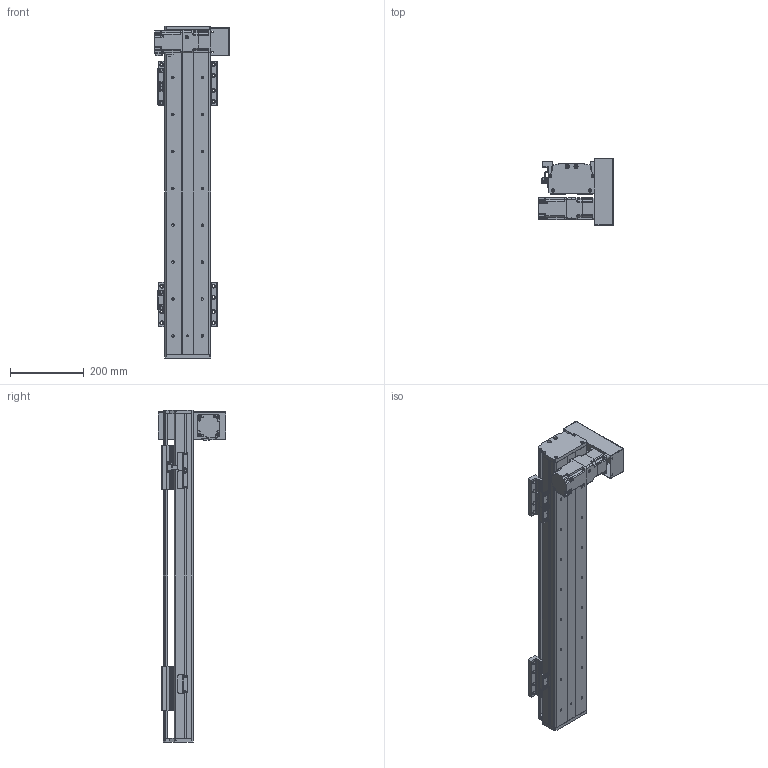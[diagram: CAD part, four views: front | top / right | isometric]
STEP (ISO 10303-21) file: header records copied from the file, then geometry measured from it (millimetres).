
FILE_DESCRIPTION(/* description */ (''),/* implementation_level */ '2;1');
FILE_NAME(/* name */ 'C:\Users\PC\Desktop\3D도면\STEP\새 폴더\DSB125-DR2G-W0600-L.stp',/* time_stamp */ '2018-06-21T14:56:13+09:00',/* author */ ('PC'),/* organization */ (''),/* preprocessor_version */ 'ST-DEVELOPER v16.5',/* originating_system */ 'Autodesk Inventor 2017',/* authorisation */ '');
FILE_SCHEMA (('AUTOMOTIVE_DESIGN { 1 0 10303 214 3 1 1 }'));
Length unit declared in the file: millimetre
Products named in the file (12): DSB125-DL2G-W0600-R_MIR; DSB125-BASE_MIR; DSB125-FRONT COVER_MIR; DSB125-REAR COVER_MIR; DSB125-UP COVER_MIR; hg-kr23__MIR; ab0601-p0401200402_MIR; 13-BELT COVER_MIR; DSR125-SENSOR DOG_MIR; pm-y65_step_MIR; SENSOR BRACKET(EE-SX674A)_MIR; DSB125-TABLE(MSB15S)_MIR
Assembly tree (16 placements, depth 2):
  DSB125-DL2G-W0600-R_MIR
    DSB125-BASE_MIR
    DSB125-FRONT COVER_MIR
    DSB125-REAR COVER_MIR
    DSB125-UP COVER_MIR
    hg-kr23__MIR
    ab0601-p0401200402_MIR
    13-BELT COVER_MIR
    DSR125-SENSOR DOG_MIR
    pm-y65_step_MIR  x3
    SENSOR BRACKET(EE-SX674A)_MIR  x3
    DSB125-TABLE(MSB15S)_MIR  x2
Bounding box: 202.1 x 182 x 900 mm (x, y, z)
Volume: 3697010.1 mm3; surface area: 1067230.5 mm2
Topology: 17 solids, 17 shells, 1647 faces, 4470 edges, 2948 vertices
Faces by surface type: plane 903, cylinder 624, cone 108, sphere 8, torus 4
Full cylindrical faces by diameter (mm): 2.459 x20, 3.242 x16, 3.5 x6, 4 x1, 4.134 x16, 4.2 x4, 4.3 x1, 4.5 x50, 4.917 x20, 5 x22, 5.3 x1, 5.5 x4, 5.6 x8, 5.8 x4, 5.9 x8, 6 x4, 6.6 x22, 6.647 x18, 7.5 x32, 8.5 x8, 8.7 x1, 11 x22, 14 x1, 16 x2, 17 x1, 20 x1, 47 x1, 50 x3
Entity records: 35717 total; most frequent: CARTESIAN_POINT 6447, DIRECTION 6058, ORIENTED_EDGE 5450, EDGE_CURVE 2725, AXIS2_PLACEMENT_3D 2217, VERTEX_POINT 1934, EDGE_LOOP 1645, LINE 1624
